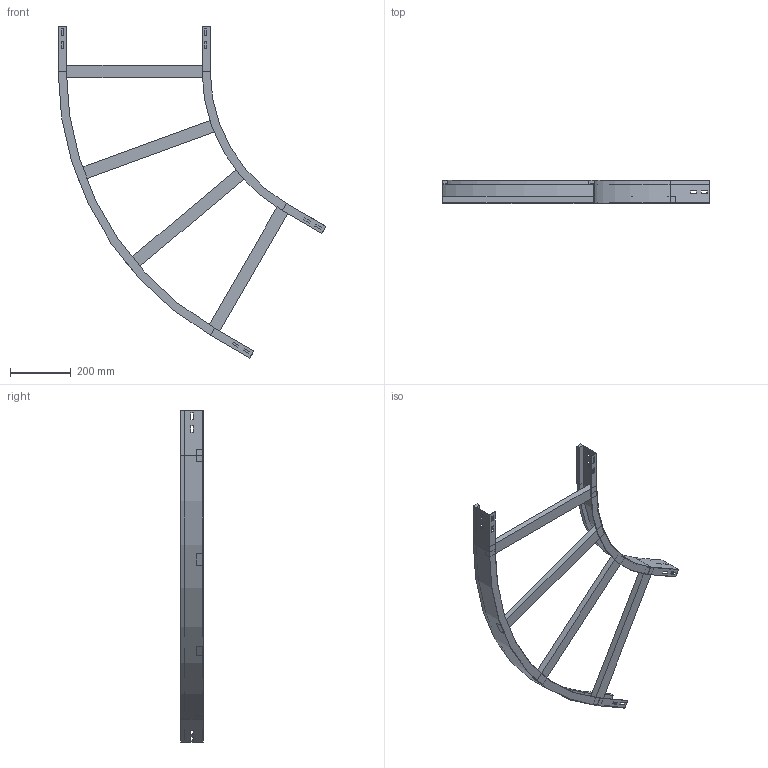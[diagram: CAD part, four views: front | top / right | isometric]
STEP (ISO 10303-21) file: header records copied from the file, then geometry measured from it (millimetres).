
FILE_DESCRIPTION (( 'STEP AP214' ), '1' );
FILE_NAME ('13B5C500.step', '2025-02-21T15:20:41', ( '' ), ( '' ), 'SwSTEP 2.0', 'SolidWorks 2023', '' );
FILE_SCHEMA (( 'AUTOMOTIVE_DESIGN' ));
Length unit declared in the file: millimetre
Products named in the file (4): 13B5C500; A2_LONGH.INTERNO 60°_H75_R500; A2_LONGH.ESTERNO 60°_H75_R500+500; TRAVERSINO_500
Assembly tree (6 placements, depth 2):
  13B5C500
    A2_LONGH.INTERNO 60°_H75_R500
    A2_LONGH.ESTERNO 60°_H75_R500+500
    TRAVERSINO_500  x4
Bounding box: 879.9 x 75 x 1091.03 mm (x, y, z)
Volume: 2453064.2 mm3; surface area: 757347.9 mm2
Topology: 6 solids, 6 shells, 140 faces, 352 edges, 224 vertices
Faces by surface type: plane 132, cylinder 8
Entity records: 3829 total; most frequent: CARTESIAN_POINT 647, ORIENTED_EDGE 632, DIRECTION 594, EDGE_CURVE 316, LINE 300, VECTOR 300, VERTEX_POINT 200, EDGE_LOOP 154
